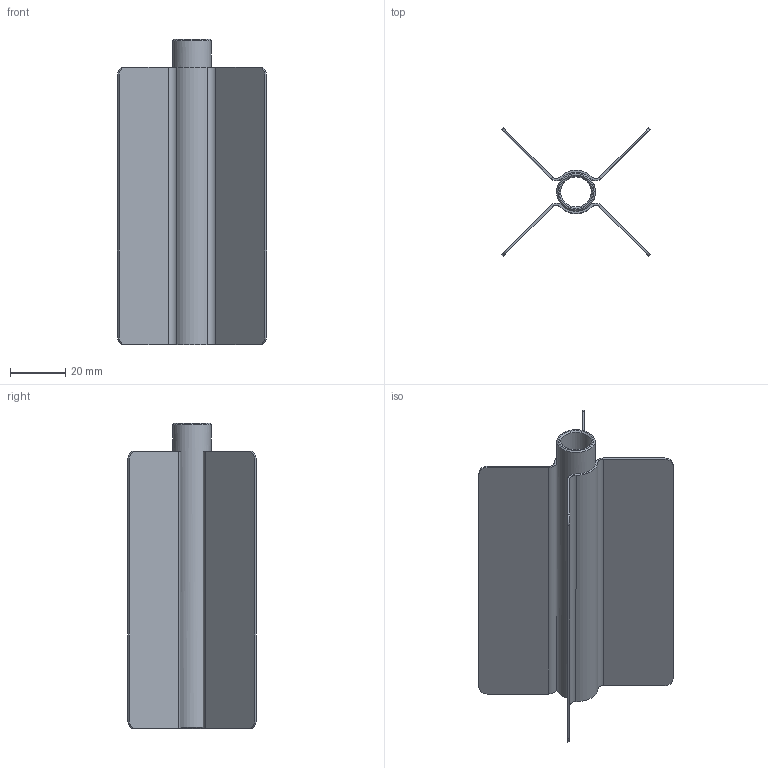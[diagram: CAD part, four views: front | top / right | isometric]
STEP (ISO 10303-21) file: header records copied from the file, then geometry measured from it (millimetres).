
FILE_DESCRIPTION(/* description */ (''),/* implementation_level */ '2;1');
FILE_NAME(/* name */ 'AC17-INOX.stp',/* time_stamp */ '2024-03-22T10:42:11+01:00',/* author */ ('filippo.guidetti'),/* organization */ (''),/* preprocessor_version */ 'ST-DEVELOPER v20',/* originating_system */ 'Autodesk Inventor 2024',/* authorisation */ '');
FILE_SCHEMA (('AUTOMOTIVE_DESIGN { 1 0 10303 214 3 1 1 }'));
Length unit declared in the file: millimetre
Products named in the file (1): AC17-INOX
Bounding box: 53.74 x 46.39 x 110 mm (x, y, z)
Volume: 17568.8 mm3; surface area: 32733.2 mm2
Topology: 1 solids, 1 shells, 49 faces, 139 edges, 92 vertices
Faces by surface type: cylinder 23, plane 22, cone 4
Full cylindrical faces by diameter (mm): 5.5 x1, 11 x1, 14 x1
Entity records: 1769 total; most frequent: CARTESIAN_POINT 326, DIRECTION 295, ORIENTED_EDGE 278, EDGE_CURVE 139, AXIS2_PLACEMENT_3D 111, VERTEX_POINT 92, LINE 73, VECTOR 73
